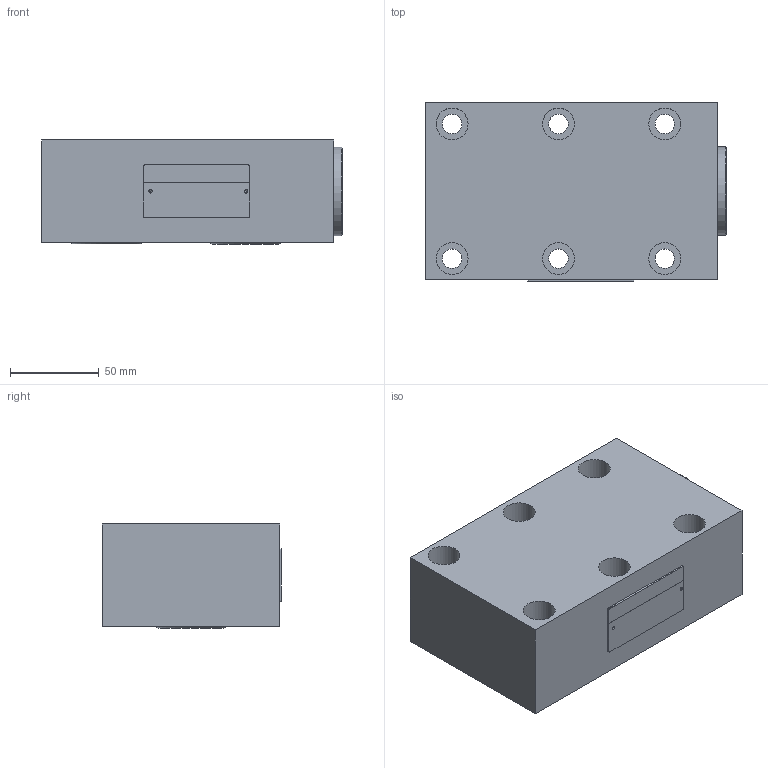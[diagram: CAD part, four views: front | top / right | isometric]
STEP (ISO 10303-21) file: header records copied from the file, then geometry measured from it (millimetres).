
FILE_DESCRIPTION(/* description */ (''),/* implementation_level */ '2;1');
FILE_NAME(/* name */ 'RVP25单向阀.prt.stp',/* time_stamp */ '2022-03-30T19:12:01+08:00',/* author */ (''),/* organization */ (''),/* preprocessor_version */ 'ST-DEVELOPER v16.7',/* originating_system */ 'SIEMENS PLM Software NX 12.0',/* authorisation */ '');
FILE_SCHEMA (('AUTOMOTIVE_DESIGN { 1 0 10303 214 3 1 1 1 }'));
Length unit declared in the file: millimetre
Products named in the file (1): RVP25单向阀
Bounding box: 169.8 x 101.1 x 58.7 mm (x, y, z)
Volume: 913958.6 mm3; surface area: 108048.9 mm2
Topology: 7 solids, 8 shells, 107 faces, 229 edges, 148 vertices
Faces by surface type: plane 46, cylinder 45, cone 10, sphere 2, bspline 2, torus 2
Full cylindrical faces by diameter (mm): 1.8 x2, 1.9 x2, 11 x6, 18 x6, 25 x1, 28.5 x2, 38.6 x1, 38.8 x1, 39.2 x1, 41 x2, 44 x2, 45.8 x2, 50 x1, 56 x1
Entity records: 4187 total; most frequent: CARTESIAN_POINT 1928, DIRECTION 463, ORIENTED_EDGE 358, AXIS2_PLACEMENT_3D 196, EDGE_LOOP 179, EDGE_CURVE 179, VERTEX_POINT 143, FACE_BOUND 140
